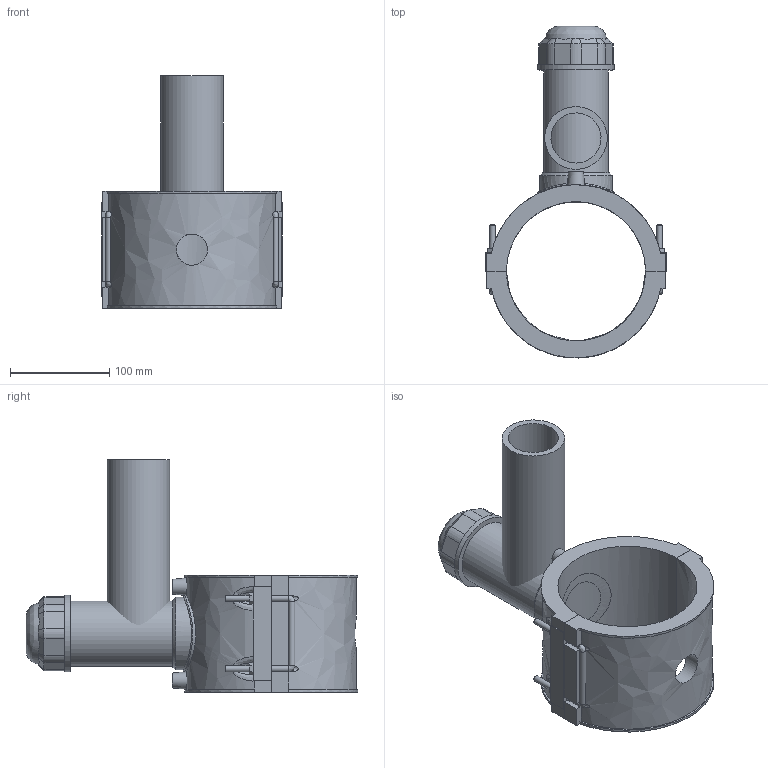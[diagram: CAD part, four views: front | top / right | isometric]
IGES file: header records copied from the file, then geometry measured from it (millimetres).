
Global section: file name: 4963P4140063; native system: Autodesk Inventor 2019; preprocessor: unknown; author: KIM; date: 20220317.112944; units: millimetre
Bounding box: 182 x 334.08 x 234 mm (x, y, z)
Volume: 1481815.8 mm3; surface area: 290247.2 mm2
Topology: 3 solids, 5 shells, 201 faces, 523 edges, 337 vertices
Faces by surface type: bspline 201
